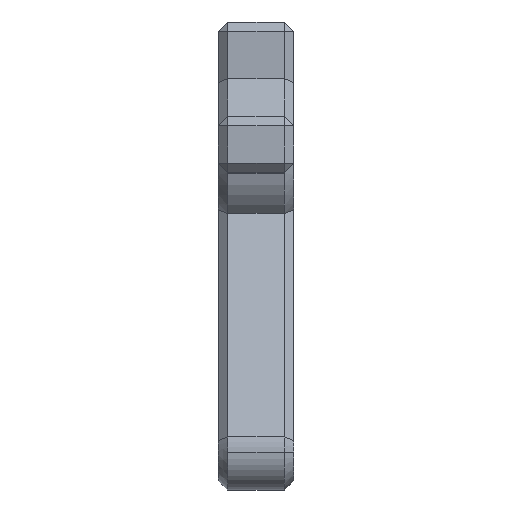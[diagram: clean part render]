
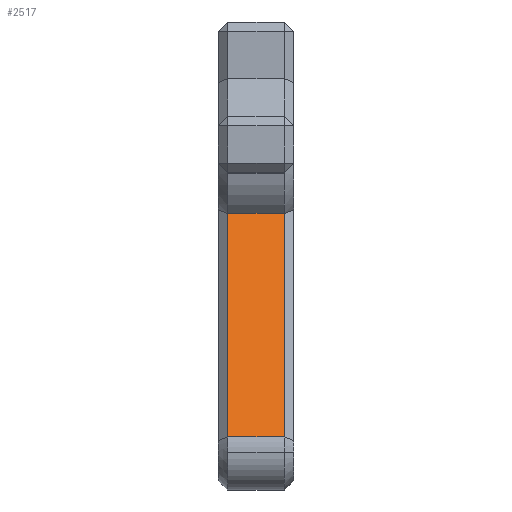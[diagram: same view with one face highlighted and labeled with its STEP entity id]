
A CAD part, top view. The second image highlights one B-rep face of the part: STEP entity #2517.
In plain terms, the highlighted planar face has unit normal (0, 0.411, 0.912).
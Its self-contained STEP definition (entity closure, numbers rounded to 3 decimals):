
#6 = CARTESIAN_POINT ( 'NONE',  ( 2., -14.978, 7.823 ) ) ;
#111 = VERTEX_POINT ( 'NONE', #2436 ) ;
#203 = VECTOR ( 'NONE', #1042, 1000. ) ;
#226 = DIRECTION ( 'NONE',  ( 0., -0.912, 0.411 ) ) ;
#253 = DIRECTION ( 'NONE',  ( 0., -0.411, -0.912 ) ) ;
#266 = ORIENTED_EDGE ( 'NONE', *, *, #2542, .T. ) ;
#322 = CARTESIAN_POINT ( 'NONE',  ( 1.5, -14.978, 7.823 ) ) ;
#372 = EDGE_CURVE ( 'NONE', #2236, #111, #1388, .T. ) ;
#529 = ORIENTED_EDGE ( 'NONE', *, *, #1769, .T. ) ;
#598 = DIRECTION ( 'NONE',  ( -1., 0., 0. ) ) ;
#669 = CARTESIAN_POINT ( 'NONE',  ( 1.5, -3.134, 2.485 ) ) ;
#745 = VECTOR ( 'NONE', #226, 1000. ) ;
#791 = DIRECTION ( 'NONE',  ( 0., 0.912, -0.411 ) ) ;
#907 = ORIENTED_EDGE ( 'NONE', *, *, #1529, .T. ) ;
#920 = VECTOR ( 'NONE', #598, 1000. ) ;
#1042 = DIRECTION ( 'NONE',  ( 0., 0.912, -0.411 ) ) ;
#1067 = EDGE_LOOP ( 'NONE', ( #2256, #529, #907, #266 ) ) ;
#1205 = FACE_OUTER_BOUND ( 'NONE', #1067, .T. ) ;
#1217 = PLANE ( 'NONE',  #2490 ) ;
#1386 = CARTESIAN_POINT ( 'NONE',  ( -1.5, -14.978, 7.823 ) ) ;
#1388 = LINE ( 'NONE', #6, #920 ) ;
#1436 = CARTESIAN_POINT ( 'NONE',  ( 1.5, -3.134, 2.485 ) ) ;
#1478 = VERTEX_POINT ( 'NONE', #1436 ) ;
#1529 = EDGE_CURVE ( 'NONE', #1478, #1961, #2288, .T. ) ;
#1704 = DIRECTION ( 'NONE',  ( -1., 0., 0. ) ) ;
#1769 = EDGE_CURVE ( 'NONE', #2236, #1478, #2013, .T. ) ;
#1961 = VERTEX_POINT ( 'NONE', #2310 ) ;
#1999 = CARTESIAN_POINT ( 'NONE',  ( 2., -14.978, 7.823 ) ) ;
#2013 = LINE ( 'NONE', #669, #203 ) ;
#2023 = LINE ( 'NONE', #1386, #745 ) ;
#2235 = VECTOR ( 'NONE', #1704, 1000. ) ;
#2236 = VERTEX_POINT ( 'NONE', #322 ) ;
#2256 = ORIENTED_EDGE ( 'NONE', *, *, #372, .F. ) ;
#2288 = LINE ( 'NONE', #2336, #2235 ) ;
#2310 = CARTESIAN_POINT ( 'NONE',  ( -1.5, -3.134, 2.485 ) ) ;
#2336 = CARTESIAN_POINT ( 'NONE',  ( 2., -3.134, 2.485 ) ) ;
#2436 = CARTESIAN_POINT ( 'NONE',  ( -1.5, -14.978, 7.823 ) ) ;
#2490 = AXIS2_PLACEMENT_3D ( 'NONE', #1999, #253, #791 ) ;
#2517 = ADVANCED_FACE ( 'NONE', ( #1205 ), #1217, .F. ) ;
#2542 = EDGE_CURVE ( 'NONE', #1961, #111, #2023, .T. ) ;
